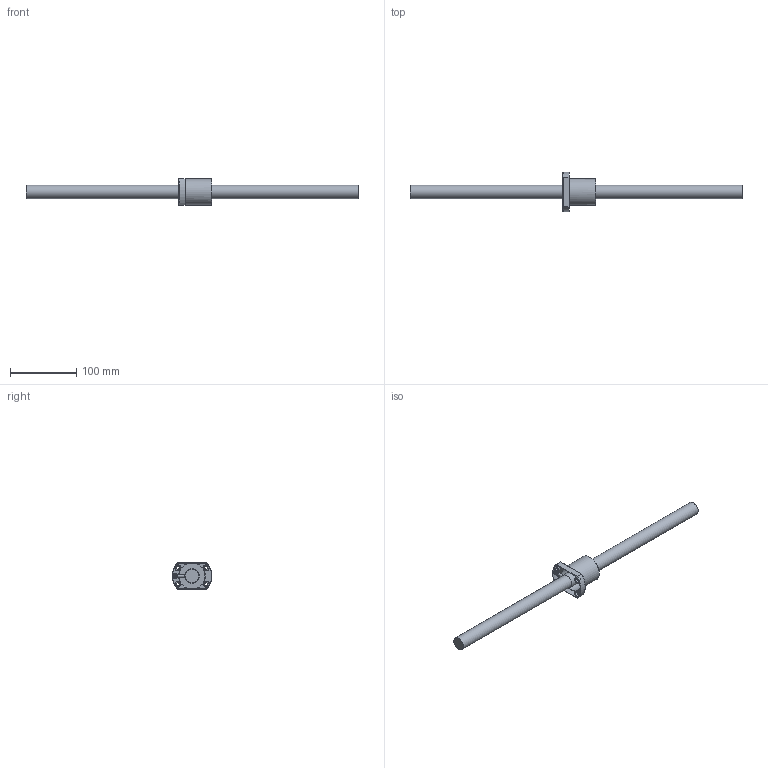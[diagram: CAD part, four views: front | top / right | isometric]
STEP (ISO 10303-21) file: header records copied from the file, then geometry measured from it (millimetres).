
FILE_DESCRIPTION (( 'STEP AP203' ), '1' );
FILE_NAME ('SFV02004D-4.8.step', '2024-05-20T03:37:33', ( '' ), ( '' ), 'SwSTEP 2.0', 'SolidWorks 2022', '' );
FILE_SCHEMA (( 'CONFIG_CONTROL_DESIGN' ));
Length unit declared in the file: millimetre
Products named in the file (1): SFV02004D-4.8
Bounding box: 500 x 59.97 x 40 mm (x, y, z)
Volume: 209487.5 mm3; surface area: 46674.5 mm2
Topology: 2 solids, 2 shells, 59 faces, 143 edges, 88 vertices
Faces by surface type: cylinder 21, plane 19, cone 9, torus 5, bspline 5
Full cylindrical faces by diameter (mm): 4 x1, 4.5 x4, 5 x6, 8 x4, 20 x1, 21.6 x1, 40 x1
Entity records: 3164 total; most frequent: CARTESIAN_POINT 2071, DIRECTION 210, ORIENTED_EDGE 176, AXIS2_PLACEMENT_3D 95, EDGE_LOOP 88, EDGE_CURVE 88, FACE_OUTER_BOUND 67, VERTEX_POINT 64
